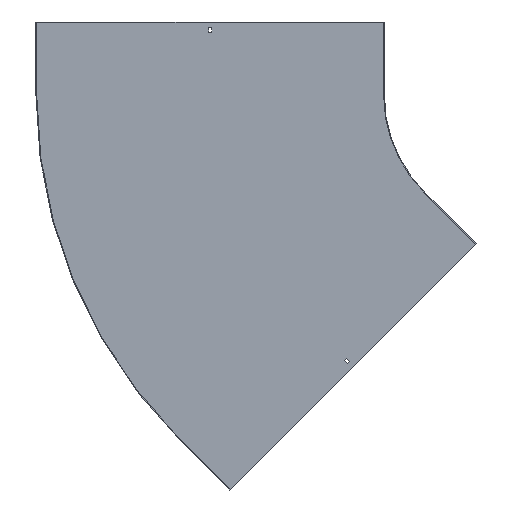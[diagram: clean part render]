
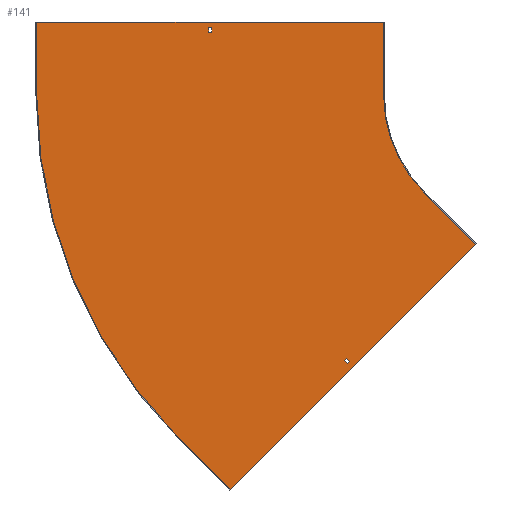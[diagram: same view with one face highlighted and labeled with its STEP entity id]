
A CAD part, front view. The second image highlights one B-rep face of the part: STEP entity #141.
In plain terms, the highlighted planar face has unit normal (0, -1, 0).
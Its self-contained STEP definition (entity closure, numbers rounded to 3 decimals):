
#6 = DIRECTION ( 'NONE',  ( 0., 0., 1. ) ) ;
#17 = EDGE_CURVE ( 'NONE', #644, #488, #500, .T. ) ;
#21 = CARTESIAN_POINT ( 'NONE',  ( -359.741, -1.5, -554.902 ) ) ;
#22 = AXIS2_PLACEMENT_3D ( 'NONE', #392, #762, #631 ) ;
#23 = CARTESIAN_POINT ( 'NONE',  ( -608.112, -1.5, -820.244 ) ) ;
#24 = VECTOR ( 'NONE', #167, 1000. ) ;
#25 = VERTEX_POINT ( 'NONE', #159 ) ;
#56 = EDGE_CURVE ( 'NONE', #727, #608, #368, .T. ) ;
#61 = LINE ( 'NONE', #663, #412 ) ;
#91 = ORIENTED_EDGE ( 'NONE', *, *, #809, .F. ) ;
#97 = EDGE_CURVE ( 'NONE', #821, #393, #423, .T. ) ;
#105 = LINE ( 'NONE', #314, #24 ) ;
#112 = VECTOR ( 'NONE', #819, 1000. ) ;
#117 = DIRECTION ( 'NONE',  ( 0., 1., 0. ) ) ;
#119 = CARTESIAN_POINT ( 'NONE',  ( 0., -1.5, 0. ) ) ;
#123 = VECTOR ( 'NONE', #249, 1000. ) ;
#127 = ORIENTED_EDGE ( 'NONE', *, *, #594, .F. ) ;
#141 = ADVANCED_FACE ( 'NONE', ( #321, #835, #512 ), #573, .T. ) ;
#143 = CARTESIAN_POINT ( 'NONE',  ( -290., -1.5, 150. ) ) ;
#148 = CARTESIAN_POINT ( 'NONE',  ( -653.25, -1.5, 129. ) ) ;
#152 = LINE ( 'NONE', #421, #824 ) ;
#156 = CARTESIAN_POINT ( 'NONE',  ( -1010., -1.5, 0. ) ) ;
#159 = CARTESIAN_POINT ( 'NONE',  ( -370.701, -1.5, -553.134 ) ) ;
#160 = VERTEX_POINT ( 'NONE', #517 ) ;
#161 = DIRECTION ( 'NONE',  ( -0.707, 0., -0.707 ) ) ;
#167 = DIRECTION ( 'NONE',  ( 1., 0., 0. ) ) ;
#187 = AXIS2_PLACEMENT_3D ( 'NONE', #119, #117, #647 ) ;
#193 = LINE ( 'NONE', #348, #375 ) ;
#195 = EDGE_CURVE ( 'NONE', #608, #862, #650, .T. ) ;
#210 = VECTOR ( 'NONE', #6, 1000. ) ;
#222 = EDGE_LOOP ( 'NONE', ( #471, #836, #328, #403, #728, #854, #696, #91 ) ) ;
#236 = CARTESIAN_POINT ( 'NONE',  ( 91.217, -1.5, -91.217 ) ) ;
#237 = CARTESIAN_POINT ( 'NONE',  ( -364.337, -1.5, -559.498 ) ) ;
#245 = EDGE_CURVE ( 'NONE', #25, #644, #656, .T. ) ;
#246 = CARTESIAN_POINT ( 'NONE',  ( -290., -1.5, 0. ) ) ;
#249 = DIRECTION ( 'NONE',  ( 0.707, 0., -0.707 ) ) ;
#257 = EDGE_CURVE ( 'NONE', #845, #505, #61, .T. ) ;
#271 = EDGE_CURVE ( 'NONE', #436, #525, #336, .T. ) ;
#274 = ORIENTED_EDGE ( 'NONE', *, *, #369, .F. ) ;
#291 = CARTESIAN_POINT ( 'NONE',  ( 97.581, -1.5, -97.581 ) ) ;
#295 = EDGE_LOOP ( 'NONE', ( #274, #447, #587, #127 ) ) ;
#307 = DIRECTION ( 'NONE',  ( 0., 0., -1. ) ) ;
#314 = CARTESIAN_POINT ( 'NONE',  ( 0., -1.5, 138. ) ) ;
#321 = FACE_BOUND ( 'NONE', #295, .T. ) ;
#328 = ORIENTED_EDGE ( 'NONE', *, *, #195, .F. ) ;
#333 = CARTESIAN_POINT ( 'NONE',  ( -461.918, -1.5, -461.918 ) ) ;
#336 = LINE ( 'NONE', #524, #123 ) ;
#337 = EDGE_CURVE ( 'NONE', #812, #821, #492, .T. ) ;
#348 = CARTESIAN_POINT ( 'NONE',  ( -653.25, -1.5, 0. ) ) ;
#352 = CARTESIAN_POINT ( 'NONE',  ( -98.995, -1.5, -311.127 ) ) ;
#353 = DIRECTION ( 'NONE',  ( 0., 0., 1. ) ) ;
#357 = DIRECTION ( 'NONE',  ( -1., 0., 0. ) ) ;
#358 = CARTESIAN_POINT ( 'NONE',  ( -1010., -1.5, 0. ) ) ;
#360 = VECTOR ( 'NONE', #774, 1000. ) ;
#361 = CARTESIAN_POINT ( 'NONE',  ( -646.75, -1.5, 0. ) ) ;
#363 = DIRECTION ( 'NONE',  ( -0.707, 0., 0.707 ) ) ;
#365 = CARTESIAN_POINT ( 'NONE',  ( -97.934, -1.5, -310.066 ) ) ;
#368 = LINE ( 'NONE', #23, #846 ) ;
#369 = EDGE_CURVE ( 'NONE', #488, #160, #152, .T. ) ;
#375 = VECTOR ( 'NONE', #353, 1000. ) ;
#392 = CARTESIAN_POINT ( 'NONE',  ( 0., -1.5, 0. ) ) ;
#393 = VERTEX_POINT ( 'NONE', #148 ) ;
#400 = VECTOR ( 'NONE', #660, 1000. ) ;
#403 = ORIENTED_EDGE ( 'NONE', *, *, #56, .F. ) ;
#412 = VECTOR ( 'NONE', #592, 1000. ) ;
#420 = DIRECTION ( 'NONE',  ( 0., 0., -1. ) ) ;
#421 = CARTESIAN_POINT ( 'NONE',  ( -457.321, -1.5, -457.321 ) ) ;
#423 = LINE ( 'NONE', #676, #664 ) ;
#428 = EDGE_CURVE ( 'NONE', #682, #436, #481, .T. ) ;
#429 = VECTOR ( 'NONE', #161, 1000. ) ;
#436 = VERTEX_POINT ( 'NONE', #577 ) ;
#441 = CARTESIAN_POINT ( 'NONE',  ( -653.25, -1.5, 138. ) ) ;
#443 = ORIENTED_EDGE ( 'NONE', *, *, #97, .T. ) ;
#444 = EDGE_CURVE ( 'NONE', #618, #812, #105, .T. ) ;
#445 = CARTESIAN_POINT ( 'NONE',  ( -714.178, -1.5, -714.178 ) ) ;
#447 = ORIENTED_EDGE ( 'NONE', *, *, #17, .F. ) ;
#466 = VECTOR ( 'NONE', #733, 1000. ) ;
#471 = ORIENTED_EDGE ( 'NONE', *, *, #257, .F. ) ;
#481 = CIRCLE ( 'NONE', #786, 290. ) ;
#483 = CARTESIAN_POINT ( 'NONE',  ( -608.112, -1.5, -820.244 ) ) ;
#487 = EDGE_LOOP ( 'NONE', ( #632, #593, #443, #699 ) ) ;
#488 = VERTEX_POINT ( 'NONE', #21 ) ;
#492 = LINE ( 'NONE', #361, #466 ) ;
#500 = LINE ( 'NONE', #291, #112 ) ;
#505 = VERTEX_POINT ( 'NONE', #827 ) ;
#512 = FACE_BOUND ( 'NONE', #487, .T. ) ;
#513 = EDGE_CURVE ( 'NONE', #862, #845, #672, .T. ) ;
#517 = CARTESIAN_POINT ( 'NONE',  ( -366.105, -1.5, -548.538 ) ) ;
#524 = CARTESIAN_POINT ( 'NONE',  ( -205.061, -1.5, -205.061 ) ) ;
#525 = VERTEX_POINT ( 'NONE', #352 ) ;
#565 = EDGE_CURVE ( 'NONE', #525, #727, #753, .T. ) ;
#573 = PLANE ( 'NONE',  #22 ) ;
#577 = CARTESIAN_POINT ( 'NONE',  ( -205.061, -1.5, -205.061 ) ) ;
#587 = ORIENTED_EDGE ( 'NONE', *, *, #245, .F. ) ;
#592 = DIRECTION ( 'NONE',  ( 1., 0., 0. ) ) ;
#593 = ORIENTED_EDGE ( 'NONE', *, *, #337, .T. ) ;
#594 = EDGE_CURVE ( 'NONE', #160, #25, #633, .T. ) ;
#608 = VERTEX_POINT ( 'NONE', #445 ) ;
#618 = VERTEX_POINT ( 'NONE', #441 ) ;
#631 = DIRECTION ( 'NONE',  ( 0., 0., -1. ) ) ;
#632 = ORIENTED_EDGE ( 'NONE', *, *, #444, .T. ) ;
#633 = LINE ( 'NONE', #236, #360 ) ;
#642 = DIRECTION ( 'NONE',  ( 0., -1., 0. ) ) ;
#644 = VERTEX_POINT ( 'NONE', #237 ) ;
#647 = DIRECTION ( 'NONE',  ( 0., 0., -1. ) ) ;
#650 = CIRCLE ( 'NONE', #187, 1010. ) ;
#653 = VECTOR ( 'NONE', #420, 1000. ) ;
#656 = LINE ( 'NONE', #333, #400 ) ;
#658 = CARTESIAN_POINT ( 'NONE',  ( -1010., -1.5, 150. ) ) ;
#660 = DIRECTION ( 'NONE',  ( 0.707, 0., -0.707 ) ) ;
#663 = CARTESIAN_POINT ( 'NONE',  ( -1011.5, -1.5, 150. ) ) ;
#664 = VECTOR ( 'NONE', #357, 1000. ) ;
#672 = LINE ( 'NONE', #358, #210 ) ;
#673 = CARTESIAN_POINT ( 'NONE',  ( -646.75, -1.5, 138. ) ) ;
#676 = CARTESIAN_POINT ( 'NONE',  ( 0., -1.5, 129. ) ) ;
#682 = VERTEX_POINT ( 'NONE', #246 ) ;
#696 = ORIENTED_EDGE ( 'NONE', *, *, #428, .F. ) ;
#699 = ORIENTED_EDGE ( 'NONE', *, *, #778, .T. ) ;
#706 = CARTESIAN_POINT ( 'NONE',  ( 0., -1.5, 0. ) ) ;
#727 = VERTEX_POINT ( 'NONE', #483 ) ;
#728 = ORIENTED_EDGE ( 'NONE', *, *, #565, .F. ) ;
#733 = DIRECTION ( 'NONE',  ( 0., 0., -1. ) ) ;
#739 = LINE ( 'NONE', #143, #653 ) ;
#753 = LINE ( 'NONE', #365, #429 ) ;
#755 = DIRECTION ( 'NONE',  ( -0.707, 0., 0.707 ) ) ;
#762 = DIRECTION ( 'NONE',  ( 0., -1., 0. ) ) ;
#774 = DIRECTION ( 'NONE',  ( -0.707, 0., -0.707 ) ) ;
#778 = EDGE_CURVE ( 'NONE', #393, #618, #193, .T. ) ;
#786 = AXIS2_PLACEMENT_3D ( 'NONE', #706, #642, #307 ) ;
#809 = EDGE_CURVE ( 'NONE', #505, #682, #739, .T. ) ;
#812 = VERTEX_POINT ( 'NONE', #673 ) ;
#819 = DIRECTION ( 'NONE',  ( 0.707, 0., 0.707 ) ) ;
#821 = VERTEX_POINT ( 'NONE', #855 ) ;
#824 = VECTOR ( 'NONE', #755, 1000. ) ;
#827 = CARTESIAN_POINT ( 'NONE',  ( -290., -1.5, 150. ) ) ;
#835 = FACE_OUTER_BOUND ( 'NONE', #222, .T. ) ;
#836 = ORIENTED_EDGE ( 'NONE', *, *, #513, .F. ) ;
#845 = VERTEX_POINT ( 'NONE', #658 ) ;
#846 = VECTOR ( 'NONE', #363, 1000. ) ;
#854 = ORIENTED_EDGE ( 'NONE', *, *, #271, .F. ) ;
#855 = CARTESIAN_POINT ( 'NONE',  ( -646.75, -1.5, 129. ) ) ;
#862 = VERTEX_POINT ( 'NONE', #156 ) ;
